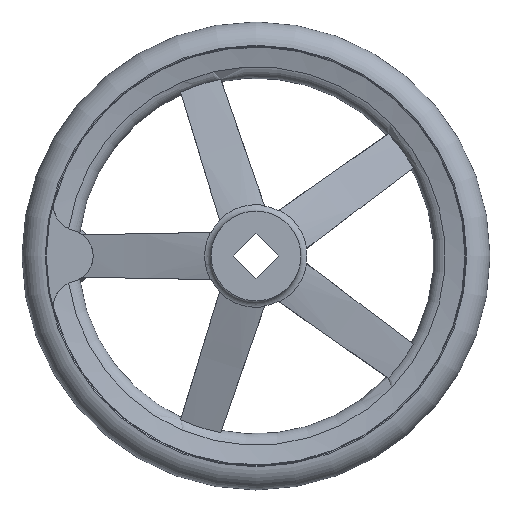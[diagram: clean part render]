
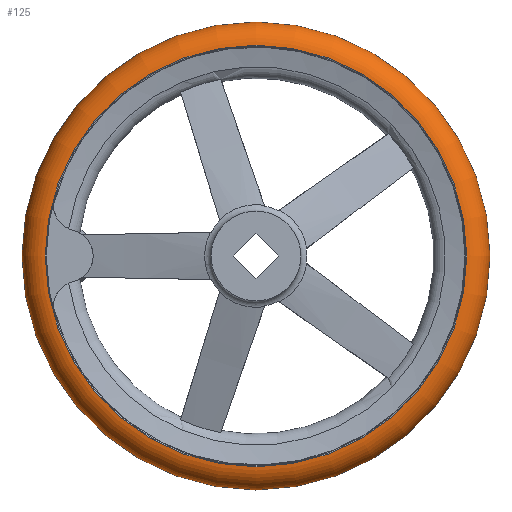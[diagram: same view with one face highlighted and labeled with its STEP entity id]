
A CAD part, left-side view. The second image highlights one B-rep face of the part: STEP entity #125.
In plain terms, the highlighted toroidal (fillet/blend) face has major radius 111.988 mm and minor radius 13.012 mm.
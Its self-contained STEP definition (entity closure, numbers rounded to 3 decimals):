
#125 = ADVANCED_FACE( '', ( #259, #260, #261 ), #262, .T. );
#259 = FACE_BOUND( '', #436, .T. );
#260 = FACE_OUTER_BOUND( '', #437, .T. );
#261 = FACE_OUTER_BOUND( '', #438, .T. );
#262 = TOROIDAL_SURFACE( '', #439, 111.988, 13.012 );
#436 = VERTEX_LOOP( '', #858 );
#437 = EDGE_LOOP( '', ( #859 ) );
#438 = EDGE_LOOP( '', ( #860 ) );
#439 = AXIS2_PLACEMENT_3D( '', #861, #862, #863 );
#858 = VERTEX_POINT( '', #1063 );
#859 = ORIENTED_EDGE( '', *, *, #1062, .T. );
#860 = ORIENTED_EDGE( '', *, *, #1057, .F. );
#861 = CARTESIAN_POINT( '', ( 37., 0., 0. ) );
#862 = DIRECTION( '', ( 1., 0., 0. ) );
#863 = DIRECTION( '', ( 0., 1., 0. ) );
#1057 = EDGE_CURVE( '', #1302, #1302, #1303, .T. );
#1062 = EDGE_CURVE( '', #1311, #1311, #1312, .T. );
#1063 = CARTESIAN_POINT( '', ( 37., 125., 0. ) );
#1302 = VERTEX_POINT( '', #2178 );
#1303 = CIRCLE( '', #2179, 112.542 );
#1311 = VERTEX_POINT( '', #2187 );
#1312 = CIRCLE( '', #2188, 112.542 );
#2178 = CARTESIAN_POINT( '', ( 50., 112.542, 0. ) );
#2179 = AXIS2_PLACEMENT_3D( '', #2370, #2371, #2372 );
#2187 = CARTESIAN_POINT( '', ( 24., 112.542, 0. ) );
#2188 = AXIS2_PLACEMENT_3D( '', #2385, #2386, #2387 );
#2370 = CARTESIAN_POINT( '', ( 50., 0., 0. ) );
#2371 = DIRECTION( '', ( 1., 0., 0. ) );
#2372 = DIRECTION( '', ( 0., 1., 0. ) );
#2385 = CARTESIAN_POINT( '', ( 24., 0., 0. ) );
#2386 = DIRECTION( '', ( 1., 0., 0. ) );
#2387 = DIRECTION( '', ( 0., 1., 0. ) );
